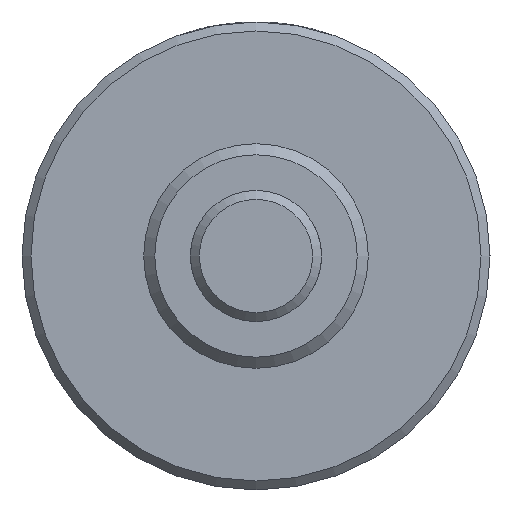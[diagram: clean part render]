
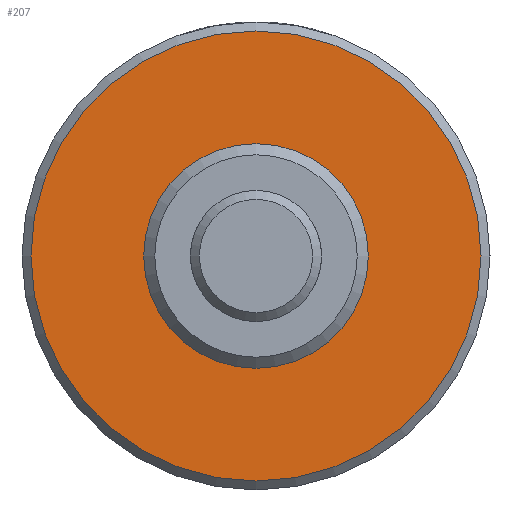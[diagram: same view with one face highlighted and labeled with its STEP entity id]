
A CAD part, left-side view. The second image highlights one B-rep face of the part: STEP entity #207.
In plain terms, the highlighted planar face has unit normal (-1, 0, 0).
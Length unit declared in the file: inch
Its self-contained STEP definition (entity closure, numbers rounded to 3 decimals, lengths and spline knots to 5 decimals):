
#207 = ADVANCED_FACE( '', ( #430, #431 ), #432, .F. );
#430 = FACE_OUTER_BOUND( '', #650, .T. );
#431 = FACE_BOUND( '', #651, .T. );
#432 = PLANE( '', #652 );
#650 = EDGE_LOOP( '', ( #979 ) );
#651 = EDGE_LOOP( '', ( #980 ) );
#652 = AXIS2_PLACEMENT_3D( '', #981, #982, #983 );
#979 = ORIENTED_EDGE( '', *, *, #1150, .F. );
#980 = ORIENTED_EDGE( '', *, *, #1167, .T. );
#981 = CARTESIAN_POINT( '', ( 0.625, 0.375, 0. ) );
#982 = DIRECTION( '', ( 1., 0., 0. ) );
#983 = DIRECTION( '', ( 0., 0., -1. ) );
#1150 = EDGE_CURVE( '', #1328, #1328, #1329, .T. );
#1167 = EDGE_CURVE( '', #1351, #1351, #1352, .T. );
#1328 = VERTEX_POINT( '', #1683 );
#1329 = CIRCLE( '', #1684, 0.7515 );
#1351 = VERTEX_POINT( '', #1712 );
#1352 = CIRCLE( '', #1713, 0.375 );
#1683 = CARTESIAN_POINT( '', ( 0.625, 0., -0.7515 ) );
#1684 = AXIS2_PLACEMENT_3D( '', #1862, #1863, #1864 );
#1712 = CARTESIAN_POINT( '', ( 0.625, 0., -0.375 ) );
#1713 = AXIS2_PLACEMENT_3D( '', #1880, #1881, #1882 );
#1862 = CARTESIAN_POINT( '', ( 0.625, 0., 0. ) );
#1863 = DIRECTION( '', ( 1., 0., 0. ) );
#1864 = DIRECTION( '', ( 0., 0., -1. ) );
#1880 = CARTESIAN_POINT( '', ( 0.625, 0., 0. ) );
#1881 = DIRECTION( '', ( 1., 0., 0. ) );
#1882 = DIRECTION( '', ( 0., 0., -1. ) );
